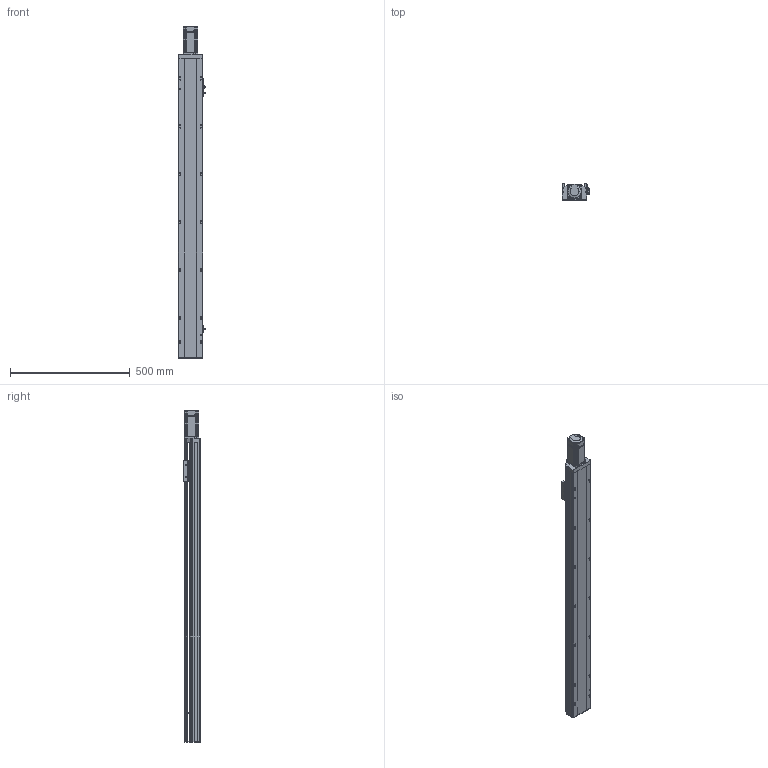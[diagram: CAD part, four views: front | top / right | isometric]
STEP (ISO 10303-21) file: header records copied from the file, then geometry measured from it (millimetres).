
FILE_DESCRIPTION (( 'STEP AP214' ), '1' );
FILE_NAME ('QTH12-1000-BC-P20.STEP', '2021-11-13T12:21:01', ( '' ), ( '' ), 'SwSTEP 2.0', 'SolidWorks 2020', '' );
FILE_SCHEMA (( 'AUTOMOTIVE_DESIGN' ));
Length unit declared in the file: millimetre
Products named in the file (8): 葩璃 QTH12-BC-002 奻裔MZ-102-02^QTH12-BC-P20; 葩璃 QTH12-BC-009 萇儂啣^QTH12-BC-P20_P20; 葩璃 侂狟400W^QTH12-BC-P20; QTH12-1000-BC-P20; 葩璃 QTH12-BC-005 賑釱MZ-102-03 ^QTH12-BC-P20; 葩璃 QTH12-BC-001 菁釱MZ-102-01^QTH12-BC-P20; 葩璃 侂狟100W^QTH12-BC-P20; 葩璃 pm-t65-672^QTH12-BC-P20
Assembly tree (9 placements, depth 2):
  QTH12-1000-BC-P20
    葩璃 QTH12-BC-001 菁釱MZ-102-01^QTH12-BC-P20
    葩璃 QTH12-BC-002 奻裔MZ-102-02^QTH12-BC-P20
    葩璃 QTH12-BC-005 賑釱MZ-102-03 ^QTH12-BC-P20
    葩璃 QTH12-BC-009 萇儂啣^QTH12-BC-P20_P20
    葩璃 pm-t65-672^QTH12-BC-P20  x3
    葩璃 侂狟100W^QTH12-BC-P20
    葩璃 侂狟400W^QTH12-BC-P20
Bounding box: 116.7 x 70 x 1385 mm (x, y, z)
Volume: 5619288.1 mm3; surface area: 783138.9 mm2
Topology: 12 solids, 12 shells, 1459 faces, 3935 edges, 2553 vertices
Faces by surface type: plane 801, cylinder 532, cone 100, bspline 26
Entity records: 40691 total; most frequent: CARTESIAN_POINT 7800, DIRECTION 6696, ORIENTED_EDGE 6474, EDGE_CURVE 3237, AXIS2_PLACEMENT_3D 2343, VERTEX_POINT 2129, LINE 2010, VECTOR 2010
